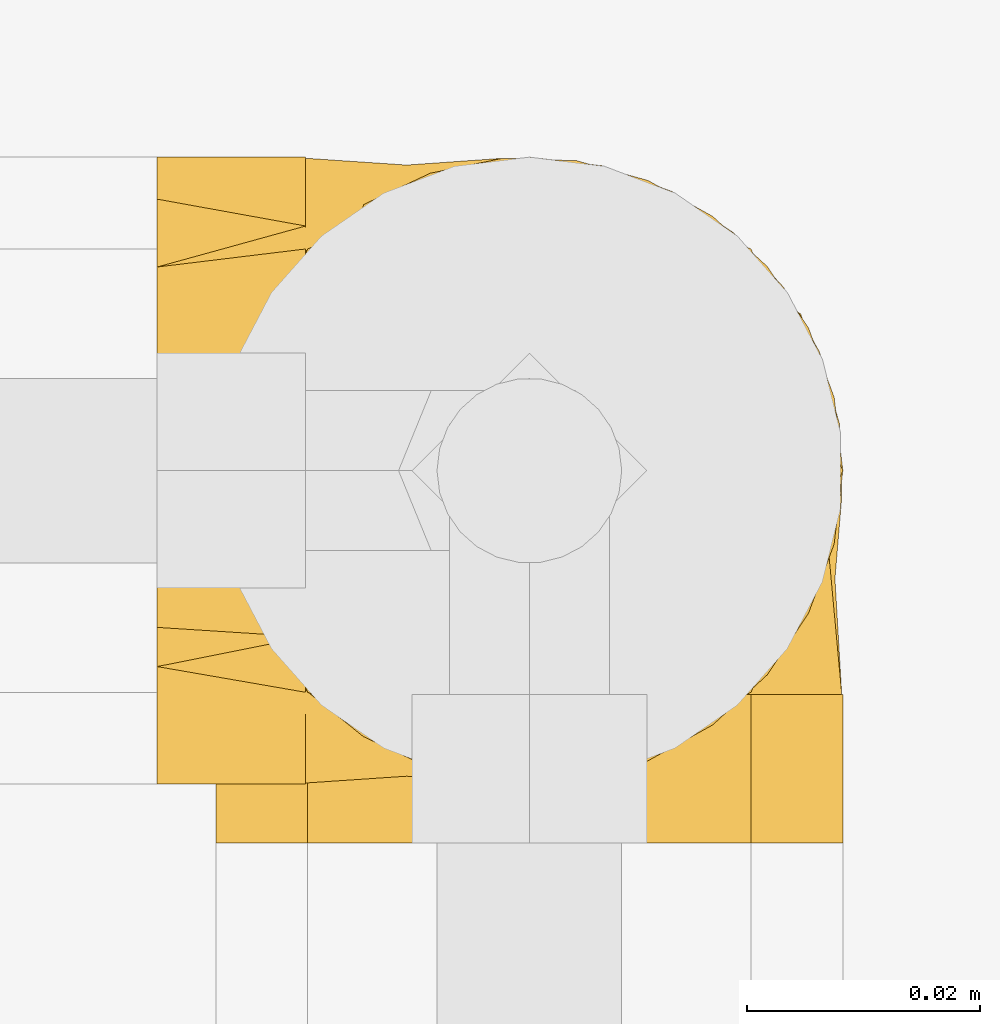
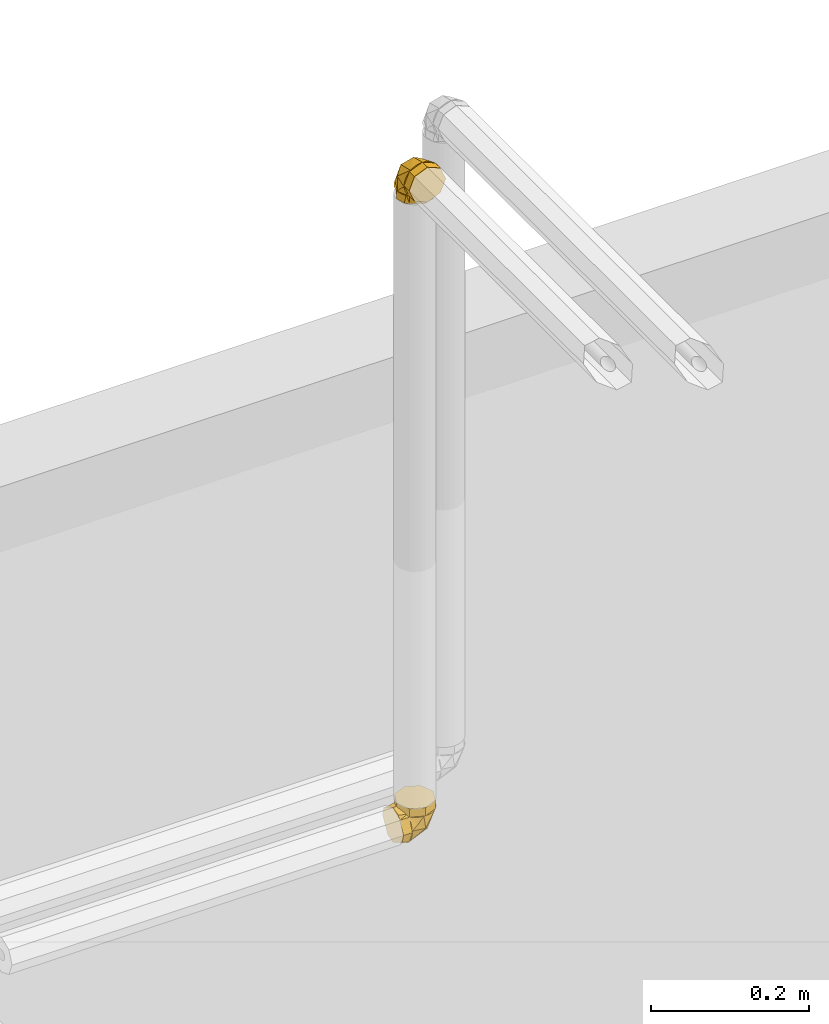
# One storey, part 375 of 652: 2 coverings.
"""IFC2X3 building model written with IfcOpenShell, lengths in millimetres."""

from ifc_helpers import new_model, entity, si_unit, converted_unit, direction, frame, origin, place, context, subcontext, project, spatial, face_set, surface_model, material, type_object, element, save


model = new_model("IFC2X3")

# Units and contexts
model_context = context("Model", 3, precision=0.01, world=frame((0.0, 0.0, 308426.39999999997)), true_north=direction((6.123233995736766e-17, 1.0)))
plan_context = context("Plan", 3, precision=0.01, world=frame((0.0, 0.0, 308426.39999999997)), true_north=direction((6.123233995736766e-17, 1.0)))
body_context = subcontext(model_context, "Body", "Model", "MODEL_VIEW")
ifc_project = project(units=[si_unit("LENGTHUNIT", "METRE", prefix="MILLI"), si_unit("AREAUNIT", "SQUARE_METRE"), si_unit("VOLUMEUNIT", "CUBIC_METRE"), converted_unit("PLANEANGLEUNIT", "DEGREE", entity("IfcPlaneAngleMeasure", 0.017453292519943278), si_unit("PLANEANGLEUNIT", "RADIAN"), dimensions=[0, 0, 0, 0, 0, 0, 0])], contexts=[model_context, plan_context])

# Site, building, storey
site_placement = place(None, origin())
site = spatial("IfcSite", under=ifc_project, at=site_placement, Name="Default", CompositionType="ELEMENT")
building_placement = place(site_placement, origin())
building = spatial("IfcBuilding", under=site, at=building_placement, CompositionType="ELEMENT")
storey_placement = place(building_placement, frame((0.0, 0.0, 1730.6999999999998)))
storey = spatial("IfcBuildingStorey", under=building, at=storey_placement, Name="EG_Produktion_FFB", CompositionType="ELEMENT", Elevation=1730.6999999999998)

# Coverings
ifc_material = material(Name="Dämmung - Armaflex-Schlauch")
covering_type = type_object("IfcCoveringType", Name="Rohrdämmung außen:Armaflex-Schlauch", PredefinedType="INSULATION")
covering_1_placement = place(storey_placement, frame((47171.46722776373, 50290.05280774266, 3728.5327722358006)))
element("IfcCovering", 1, at=covering_1_placement, inside=storey, type_object=covering_type, material=ifc_material, Name="Rohrdämmung außen:Armaflex-Schlauch", ObjectType="Rohrdämmung außen:Armaflex-Schlauch", PredefinedType="INSULATION", context=body_context, shape_type="SurfaceModel", body=[
    surface_model("IfcFaceBasedSurfaceModel", [(47.409122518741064, 12.766250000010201, -47.75027223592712), (51.38658262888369, 12.766250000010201, -42.79223424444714), (54.0915642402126, 12.766250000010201, -37.040242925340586), (55.37345654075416, 12.766250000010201, -30.814563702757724), (55.16088498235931, 12.766250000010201, -24.461836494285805), (53.465685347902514, 12.766250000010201, -18.335775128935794), (50.38224474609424, 12.766250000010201, -12.77747289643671), (46.08224622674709, 12.766250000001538, -8.096410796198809), (40.8051096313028, 12.766250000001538, -4.553225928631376), (34.844660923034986, 12.766250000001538, -2.3451994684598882), (28.532772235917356, 12.766250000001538, -1.595272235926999), (22.220883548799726, 12.766250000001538, -2.3451994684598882), (16.26043484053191, 12.766250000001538, -4.553225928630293), (10.983298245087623, 12.766250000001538, -8.096410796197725), (6.683299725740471, 12.766250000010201, -12.77747289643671), (3.599859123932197, 12.766250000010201, -18.33577512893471), (1.904659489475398, 12.766250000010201, -24.461836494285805), (1.6920879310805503, 12.766250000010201, -30.814563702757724), (2.973980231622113, 12.766250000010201, -37.040242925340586), (5.678961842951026, 12.766250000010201, -42.79223424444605), (9.65642195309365, 12.766250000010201, -47.75027223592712), (5.678961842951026, 17.72428799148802, -47.75027223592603), (2.973980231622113, 23.476279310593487, -47.75027223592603), (1.6920879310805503, 29.701958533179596, -47.75027223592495), (1.904659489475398, 36.05468574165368, -47.75027223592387), (3.599859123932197, 42.18074710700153, -47.75027223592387), (6.683299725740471, 47.73904933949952, -47.750272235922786), (10.983298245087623, 52.420111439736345, -47.750272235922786), (16.26043484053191, 55.96329630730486, -47.750272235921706), (22.220883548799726, 58.17132276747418, -47.750272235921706), (28.532772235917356, 58.921250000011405, -47.750272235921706), (34.844660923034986, 58.17132276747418, -47.750272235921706), (40.8051096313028, 55.96329630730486, -47.750272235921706), (46.08224622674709, 52.420111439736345, -47.750272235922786), (50.38224474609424, 47.73904933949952, -47.750272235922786), (53.465685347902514, 42.18074710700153, -47.75027223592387), (55.16088498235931, 36.05468574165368, -47.75027223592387), (55.37345654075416, 29.701958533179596, -47.75027223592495), (54.0915642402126, 23.476279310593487, -47.75027223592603), (51.38658262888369, 17.72428799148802, -47.75027223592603), (54.78966920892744, 22.708715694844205, -39.069426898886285), (28.530806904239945, 35.842797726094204, -7.778894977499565), (50.729451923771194, 12.765136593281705, -19.45550783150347), (53.46416872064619, 33.563867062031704, -26.95098054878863), (42.78109987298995, 43.1818846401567, -18.674741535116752), (28.530806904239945, 48.376916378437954, -29.48629091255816), (50.729451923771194, 41.061083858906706, -47.75029237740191), (14.285164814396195, 43.1818846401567, -18.674741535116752), (3.602095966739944, 33.563867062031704, -26.95098054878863), (2.276595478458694, 22.708715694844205, -39.069426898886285), (6.336812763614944, 41.061083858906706, -47.75029237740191), (6.336812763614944, 12.765136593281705, -19.45550783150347), (28.532772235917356, 0.0, -1.5952722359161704), (23.77085000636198, 0.0, -3.567725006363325), (19.008927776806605, 0.0, -5.540177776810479), (14.247005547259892, 0.0, -7.51263054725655), (9.485083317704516, 0.0, -9.485083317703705), (7.512630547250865, 0.0, -14.247005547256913), (5.540177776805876, 0.0, -19.008927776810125), (3.567725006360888, 0.0, -23.770850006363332), (1.5952722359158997, 0.0, -28.532772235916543), (3.567725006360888, 0.0, -33.29469446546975), (5.540177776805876, 0.0, -38.05661669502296), (7.512630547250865, 0.0, -42.818538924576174), (9.485083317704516, 0.0, -47.58046115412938), (14.247005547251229, 0.0, -49.552913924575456), (19.008927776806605, 0.0, -51.52536669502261), (23.77085000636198, 0.0, -53.49781946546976), (28.532772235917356, 0.0, -55.470272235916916), (33.29469446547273, 0.0, -53.49781946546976), (38.056616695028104, 0.0, -51.52536669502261), (42.818538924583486, 0.0, -49.552913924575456), (47.5804611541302, 0.0, -47.58046115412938), (49.55291392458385, 0.0, -42.818538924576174), (51.525366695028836, 0.0, -38.05661669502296), (53.497819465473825, 0.0, -33.29469446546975), (55.47027223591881, 0.0, -28.532772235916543), (53.497819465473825, 0.0, -23.770850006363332), (51.525366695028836, 0.0, -19.008927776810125), (49.552913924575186, 0.0, -14.247005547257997), (47.5804611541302, 0.0, -9.485083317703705), (42.81853892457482, 0.0, -7.51263054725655), (38.056616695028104, 0.0, -5.540177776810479), (33.29469446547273, 0.0, -3.567725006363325), (28.532772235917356, 12.766250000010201, -1.5952722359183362), (33.29469446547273, 12.766250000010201, -3.567725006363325), (38.056616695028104, 12.766250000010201, -5.540177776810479), (42.81853892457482, 12.766250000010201, -7.512630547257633), (47.5804611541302, 12.766250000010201, -9.48508331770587), (49.96980627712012, 12.766250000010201, -15.25347271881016), (52.35915140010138, 12.766250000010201, -21.021862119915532), (55.47027223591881, 12.766250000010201, -28.53277223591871), (53.497819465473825, 12.766250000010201, -33.29469446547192), (51.525366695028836, 12.766250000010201, -38.05661669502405), (49.552913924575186, 12.766250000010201, -42.818538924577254), (47.5804611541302, 12.766250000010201, -47.58046115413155), (41.81207175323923, 12.766250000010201, -49.96980627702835), (36.04368235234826, 12.766250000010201, -52.35915139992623), (28.532772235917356, 12.766250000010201, -55.47027223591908), (23.77085000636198, 12.766250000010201, -53.49781946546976), (19.008927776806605, 12.766250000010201, -51.52536669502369), (14.247005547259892, 12.766250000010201, -49.552913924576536), (9.485083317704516, 12.766250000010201, -47.58046115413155), (7.095738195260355, 12.766250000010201, -41.81207175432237), (4.706393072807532, 12.766250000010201, -36.04368235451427), (1.5952722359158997, 12.766250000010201, -28.53277223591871), (3.567725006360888, 12.766250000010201, -23.7708500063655), (5.540177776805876, 12.766250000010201, -19.008927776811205), (7.512630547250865, 12.766250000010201, -14.247005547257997), (9.485083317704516, 12.766250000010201, -9.48508331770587), (15.253472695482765, 12.766250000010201, -7.09573820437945), (21.021862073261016, 12.766250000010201, -4.7063930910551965), (28.532772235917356, 58.921250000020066, -60.51652223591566), (34.36491206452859, 55.55406250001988, -60.51652223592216), (40.197051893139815, 52.186875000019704, -60.51652223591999), (46.02919172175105, 48.81968750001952, -60.516522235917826), (51.86133155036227, 45.452500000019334, -60.51652223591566), (53.66580189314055, 38.71812500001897, -60.51652223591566), (55.47027223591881, 31.98375000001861, -60.51652223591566), (52.10308473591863, 26.15161017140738, -60.51652223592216), (48.73589723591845, 20.319470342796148, -60.51652223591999), (45.368709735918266, 14.487330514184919, -60.516522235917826), (42.00152223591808, 8.65519068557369, -60.51652223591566), (35.26714723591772, 6.850720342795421, -60.51652223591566), (28.532772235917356, 5.046250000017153, -60.51652223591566), (22.700632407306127, 8.413437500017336, -60.51652223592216), (16.868492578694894, 11.780625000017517, -60.51652223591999), (11.036352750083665, 15.1478125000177, -60.516522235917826), (5.204212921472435, 18.51500000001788, -60.51652223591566), (3.3997425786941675, 25.249375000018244, -60.51652223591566), (1.5952722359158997, 31.98375000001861, -60.51652223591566), (4.962459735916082, 37.81588982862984, -60.51652223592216), (8.329647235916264, 43.64802965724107, -60.51652223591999), (11.696834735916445, 49.4801694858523, -60.516522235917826), (15.064022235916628, 55.312309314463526, -60.51652223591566), (21.79839723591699, 57.1167796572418, -60.51652223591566), (28.532772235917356, 58.921250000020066, -47.75027223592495), (23.77085000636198, 56.94879722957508, -47.75027223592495), (19.008927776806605, 54.97634445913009, -47.75027223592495), (14.247005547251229, 53.00389168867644, -47.75027223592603), (9.485083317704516, 51.03143891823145, -47.75027223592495), (7.512630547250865, 46.26951668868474, -47.75027223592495), (5.540177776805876, 41.50759445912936, -47.75027223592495), (3.567725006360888, 36.745672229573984, -47.75027223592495), (1.5952722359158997, 31.98375000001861, -47.75027223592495), (3.567725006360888, 27.221827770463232, -47.75027223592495), (5.540177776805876, 22.459905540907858, -47.75027223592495), (7.512630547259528, 17.697983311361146, -47.75027223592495), (9.485083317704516, 12.93606108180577, -47.75027223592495), (14.247005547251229, 10.963608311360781, -47.75027223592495), (19.008927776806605, 8.99115554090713, -47.75027223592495), (23.77085000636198, 7.018702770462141, -47.75027223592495), (28.532772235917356, 5.046250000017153, -47.75027223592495), (33.29469446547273, 7.018702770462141, -47.75027223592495), (38.056616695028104, 8.99115554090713, -47.75027223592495), (42.818538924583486, 10.963608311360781, -47.75027223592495), (47.5804611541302, 12.93606108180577, -47.75027223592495), (49.552913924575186, 17.697983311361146, -47.75027223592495), (51.525366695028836, 22.459905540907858, -47.75027223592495), (53.497819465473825, 27.221827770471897, -47.75027223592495), (55.47027223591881, 31.98375000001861, -47.75027223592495), (53.497819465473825, 36.745672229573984, -47.75027223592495), (51.525366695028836, 41.50759445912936, -47.75027223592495), (49.552913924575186, 46.26951668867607, -47.75027223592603), (47.5804611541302, 51.03143891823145, -47.75027223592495), (42.81853892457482, 53.00389168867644, -47.75027223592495), (38.056616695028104, 54.97634445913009, -47.75027223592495), (33.29469446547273, 56.948797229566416, -47.75027223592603)], [face_set([[[0, 1, 2, 3, 4, 5, 6, 7, 8, 9, 10, 11, 12, 13, 14, 15, 16, 17, 18, 19]], [[20, 21, 22, 23, 24, 25, 26, 27, 28, 29, 30, 31, 32, 33, 34, 35, 36, 37, 38, 39]], [[0, 40, 3]], [[10, 7, 41]], [[42, 3, 43, 7]], [[40, 43, 3]], [[37, 40, 0]], [[7, 43, 44]], [[45, 41, 44]], [[7, 44, 41]], [[33, 30, 45]], [[45, 44, 33]], [[43, 33, 44]], [[43, 37, 46, 33]], [[37, 43, 40]], [[13, 10, 41]], [[27, 47, 45]], [[45, 30, 27]], [[48, 47, 27]], [[49, 48, 23]], [[50, 23, 48, 27]], [[45, 47, 41]], [[20, 49, 23]], [[47, 48, 13]], [[17, 49, 20]], [[41, 47, 13]], [[48, 17, 51, 13]], [[17, 48, 49]]]), face_set([[[52, 53, 54, 55, 56, 57, 58, 59, 60, 61, 62, 63, 64, 65, 66, 67, 68, 69, 70, 71, 72, 73, 74, 75, 76, 77, 78, 79, 80, 81, 82, 83]], [[84, 85, 86, 87, 88, 89, 90, 91, 92, 93, 94, 95, 96, 97, 98, 99, 100, 101, 102, 103, 104, 105, 106, 107, 108, 109, 110, 111]], [[111, 110, 109, 56, 55, 54, 53, 52, 84]], [[56, 109, 108, 107, 106, 105, 60, 59, 58, 57]], [[104, 103, 102, 64, 63, 62, 61, 60, 105]], [[64, 102, 101, 100, 99, 98, 68, 67, 66, 65]], [[97, 96, 95, 72, 71, 70, 69, 68, 98]], [[72, 95, 94, 93, 92, 91, 76, 75, 74, 73]], [[90, 89, 88, 80, 79, 78, 77, 76, 91]], [[80, 88, 87, 86, 85, 84, 52, 83, 82, 81]]]), face_set([[[112, 113, 114, 115, 116, 117, 118, 119, 120, 121, 122, 123, 124, 125, 126, 127, 128, 129, 130, 131, 132, 133, 134, 135]], [[136, 137, 138, 139, 140, 141, 142, 143, 144, 145, 146, 147, 148, 149, 150, 151, 152, 153, 154, 155, 156, 157, 158, 159, 160, 161, 162, 163, 164, 165, 166, 167]], [[155, 121, 156]], [[118, 159, 119]], [[159, 158, 119]], [[123, 154, 153]], [[153, 152, 124]], [[121, 155, 122]], [[120, 158, 157]], [[118, 160, 159]], [[158, 120, 119]], [[124, 123, 153]], [[157, 156, 121]], [[155, 154, 122]], [[123, 122, 154]], [[120, 157, 121]], [[163, 115, 164]], [[112, 167, 113]], [[167, 166, 113]], [[117, 162, 161]], [[161, 160, 118]], [[115, 163, 116]], [[114, 166, 165]], [[112, 136, 167]], [[166, 114, 113]], [[118, 117, 161]], [[165, 164, 115]], [[163, 162, 116]], [[117, 116, 162]], [[114, 165, 115]], [[139, 133, 140]], [[130, 143, 131]], [[143, 142, 131]], [[135, 138, 137]], [[137, 136, 112]], [[133, 139, 134]], [[132, 142, 141]], [[130, 144, 143]], [[142, 132, 131]], [[112, 135, 137]], [[141, 140, 133]], [[139, 138, 134]], [[135, 134, 138]], [[132, 141, 133]], [[147, 127, 148]], [[124, 151, 125]], [[151, 150, 125]], [[129, 146, 145]], [[145, 144, 130]], [[127, 147, 128]], [[126, 150, 149]], [[124, 152, 151]], [[150, 126, 125]], [[130, 129, 145]], [[149, 148, 127]], [[147, 146, 128]], [[129, 128, 146]], [[126, 149, 127]]])]),
])
covering_2_placement = place(storey_placement, frame((47168.01624999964, 50293.50378550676, 2671.467227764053)))
element("IfcCovering", 2, at=covering_2_placement, inside=storey, type_object=covering_type, material=ifc_material, Name="Rohrdämmung außen:Armaflex-Schlauch", ObjectType="Rohrdämmung außen:Armaflex-Schlauch", PredefinedType="INSULATION", context=body_context, shape_type="SurfaceModel", body=[
    surface_model("IfcFaceBasedSurfaceModel", [(12.766249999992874, 9.65642195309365, 47.750272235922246), (17.724287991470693, 5.678961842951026, 47.750272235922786), (23.47627931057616, 2.973980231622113, 47.750272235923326), (29.70195853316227, 1.6920879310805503, 47.75027223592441), (36.054685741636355, 1.904659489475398, 47.75027223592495), (42.1807471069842, 3.599859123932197, 47.75027223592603), (47.7390493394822, 6.683299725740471, 47.75027223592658), (52.420111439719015, 10.983298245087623, 47.75027223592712), (55.963296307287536, 16.26043484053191, 47.75027223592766), (58.17132276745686, 22.220883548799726, 47.75027223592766), (58.921249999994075, 28.532772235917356, 47.75027223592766), (58.17132276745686, 34.844660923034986, 47.75027223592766), (55.963296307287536, 40.8051096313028, 47.75027223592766), (52.420111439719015, 46.08224622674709, 47.75027223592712), (47.7390493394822, 50.38224474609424, 47.75027223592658), (42.1807471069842, 53.465685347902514, 47.75027223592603), (36.054685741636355, 55.16088498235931, 47.75027223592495), (29.70195853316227, 55.37345654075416, 47.75027223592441), (23.47627931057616, 54.0915642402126, 47.750272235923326), (17.724287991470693, 51.38658262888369, 47.750272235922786), (12.766249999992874, 47.409122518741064, 47.750272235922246), (12.766249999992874, 51.38658262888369, 42.79223424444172), (12.766249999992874, 54.0915642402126, 37.04024292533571), (12.766249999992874, 55.37345654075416, 30.81456370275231), (12.766249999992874, 55.16088498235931, 24.46183649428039), (12.766249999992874, 53.465685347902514, 18.33577512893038), (12.766249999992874, 50.38224474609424, 12.777472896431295), (12.766250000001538, 46.08224622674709, 8.096410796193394), (12.766250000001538, 40.8051096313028, 4.553225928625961), (12.766250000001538, 34.844660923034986, 2.3451994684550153), (12.766250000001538, 28.532772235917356, 1.5952722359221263), (12.766250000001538, 22.220883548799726, 2.3451994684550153), (12.766250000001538, 16.26043484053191, 4.553225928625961), (12.766250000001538, 10.983298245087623, 8.096410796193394), (12.766249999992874, 6.683299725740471, 12.777472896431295), (12.766249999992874, 3.599859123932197, 18.33577512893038), (12.766249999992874, 1.904659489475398, 24.46183649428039), (12.766249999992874, 1.6920879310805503, 30.81456370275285), (12.766249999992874, 2.973980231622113, 37.04024292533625), (12.766249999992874, 5.678961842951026, 42.79223424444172), (21.447543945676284, 2.277379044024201, 37.807400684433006), (52.738657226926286, 28.53159046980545, 24.672737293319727), (33.567734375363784, 3.598228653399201, 26.951086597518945), (41.06030029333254, 6.337596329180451, 47.75039842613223), (31.028354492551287, 28.53159046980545, 12.139781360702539), (41.84164794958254, 14.2859483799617, 17.332487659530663), (12.764353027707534, 6.337596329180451, 19.45561388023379), (41.84164794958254, 42.781883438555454, 17.332487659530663), (33.567734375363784, 53.464952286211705, 26.951086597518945), (21.447543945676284, 54.790452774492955, 37.807400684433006), (12.764353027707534, 50.72558461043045, 19.45561388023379), (41.06030029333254, 50.72558461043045, 47.75039842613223), (53.00389168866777, 14.247005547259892, 60.51652223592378), (54.97634445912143, 19.008927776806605, 60.51652223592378), (56.948797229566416, 23.77085000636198, 60.51652223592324), (58.921250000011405, 28.532772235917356, 60.5165222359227), (56.948797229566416, 33.29469446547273, 60.5165222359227), (54.97634445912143, 38.056616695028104, 60.51652223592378), (53.00389168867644, 42.818538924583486, 60.51652223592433), (51.03143891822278, 47.5804611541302, 60.51652223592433), (46.26951668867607, 49.55291392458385, 60.51652223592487), (41.507594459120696, 51.525366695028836, 60.51652223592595), (36.74567222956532, 53.497819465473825, 60.51652223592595), (31.983750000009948, 55.47027223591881, 60.516522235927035), (27.22182777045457, 53.497819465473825, 60.516522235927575), (22.459905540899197, 51.525366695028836, 60.516522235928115), (17.69798331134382, 49.552913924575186, 60.516522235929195), (12.936061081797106, 47.5804611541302, 60.51652223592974), (10.963608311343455, 42.818538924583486, 60.51652223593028), (8.991155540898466, 38.056616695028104, 60.51652223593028), (7.018702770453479, 33.29469446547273, 60.51652223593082), (5.046250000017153, 28.532772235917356, 60.51652223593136), (7.018702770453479, 23.77085000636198, 60.51652223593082), (8.991155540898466, 19.008927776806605, 60.51652223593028), (10.963608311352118, 14.247005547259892, 60.51652223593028), (12.936061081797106, 9.485083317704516, 60.51652223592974), (17.69798331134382, 7.512630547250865, 60.516522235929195), (22.459905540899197, 5.540177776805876, 60.516522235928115), (27.22182777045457, 3.567725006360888, 60.516522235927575), (31.983750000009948, 1.5952722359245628, 60.516522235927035), (36.74567222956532, 3.567725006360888, 60.51652223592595), (41.507594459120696, 5.540177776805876, 60.51652223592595), (46.26951668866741, 7.512630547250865, 60.51652223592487), (51.03143891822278, 9.485083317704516, 60.51652223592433), (58.92125000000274, 28.532772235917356, 47.75027223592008), (56.948797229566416, 23.77085000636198, 47.75027223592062), (54.97634445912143, 19.008927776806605, 47.750272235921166), (53.00389168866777, 14.247005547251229, 47.750272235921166), (51.03143891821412, 9.485083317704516, 47.750272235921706), (45.26304951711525, 7.095738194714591, 47.750272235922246), (39.49466011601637, 4.706393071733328, 47.750272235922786), (31.983750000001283, 1.5952722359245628, 47.75027223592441), (27.22182777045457, 3.567725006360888, 47.75027223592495), (22.459905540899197, 5.540177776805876, 47.75027223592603), (17.69798331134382, 7.512630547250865, 47.75027223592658), (12.936061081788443, 9.485083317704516, 47.75027223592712), (10.546715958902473, 15.253472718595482, 47.7502722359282), (8.157370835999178, 21.021862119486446, 47.7502722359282), (5.046250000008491, 28.532772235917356, 47.75027223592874), (7.018702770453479, 33.29469446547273, 47.7502722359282), (8.991155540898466, 38.056616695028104, 47.7502722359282), (10.963608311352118, 42.818538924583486, 47.7502722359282), (12.936061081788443, 47.5804611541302, 47.75027223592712), (18.704450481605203, 49.96980627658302, 47.75027223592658), (24.472839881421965, 52.359151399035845, 47.75027223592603), (31.983750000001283, 55.47027223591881, 47.75027223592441), (36.74567222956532, 53.497819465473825, 47.75027223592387), (41.507594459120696, 51.525366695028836, 47.750272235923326), (46.26951668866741, 49.552913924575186, 47.750272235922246), (51.03143891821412, 47.5804611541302, 47.750272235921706), (53.420784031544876, 41.81207177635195, 47.750272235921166), (55.810129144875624, 36.0436823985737, 47.750272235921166), (0.0, 28.532772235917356, 1.5952722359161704), (0.0, 22.700632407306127, 4.962459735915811), (0.0, 16.868492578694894, 8.329647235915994), (0.0, 11.036352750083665, 11.696834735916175), (0.0, 5.204212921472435, 15.064022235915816), (0.0, 3.3997425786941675, 21.798397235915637), (0.0, 1.5952722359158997, 28.532772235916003), (0.0, 4.962459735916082, 34.36491206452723), (0.0, 8.329647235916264, 40.19705189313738), (0.0, 11.696834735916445, 46.02919172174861), (0.0, 15.064022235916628, 51.861331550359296), (0.0, 21.79839723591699, 53.66580189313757), (0.0, 28.532772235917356, 55.470272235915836), (0.0, 34.36491206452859, 52.10308473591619), (0.0, 40.197051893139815, 48.73589723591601), (0.0, 46.02919172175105, 45.36870973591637), (0.0, 51.86133155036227, 42.00152223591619), (0.0, 53.66580189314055, 35.26714723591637), (0.0, 55.47027223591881, 28.532772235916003), (0.0, 52.10308473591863, 22.700632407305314), (0.0, 48.73589723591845, 16.868492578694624), (0.0, 45.368709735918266, 11.036352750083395), (0.0, 42.00152223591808, 5.204212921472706), (0.0, 35.26714723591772, 3.3997425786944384), (12.766250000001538, 28.532772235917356, 1.5952722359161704), (12.766250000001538, 33.29469446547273, 3.567725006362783), (12.766250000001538, 38.056616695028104, 5.540177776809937), (12.766250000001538, 42.81853892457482, 7.512630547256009), (12.766250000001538, 47.5804611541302, 9.485083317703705), (12.766250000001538, 49.55291392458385, 14.247005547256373), (12.766250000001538, 51.525366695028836, 19.008927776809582), (12.766250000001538, 53.497819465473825, 23.770850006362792), (12.766250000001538, 55.47027223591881, 28.532772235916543), (12.766250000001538, 53.497819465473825, 33.29469446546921), (12.766250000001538, 51.525366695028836, 38.05661669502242), (12.766250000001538, 49.55291392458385, 42.818538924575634), (12.766250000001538, 47.5804611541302, 47.58046115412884), (12.766250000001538, 42.81853892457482, 49.552913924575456), (12.766250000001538, 38.056616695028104, 51.525366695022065), (12.766250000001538, 33.29469446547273, 53.49781946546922), (12.766250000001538, 28.532772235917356, 55.470272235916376), (12.766250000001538, 23.77085000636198, 53.49781946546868), (12.766250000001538, 19.008927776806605, 51.525366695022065), (12.766250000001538, 14.247005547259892, 49.552913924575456), (12.766250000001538, 9.485083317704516, 47.58046115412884), (12.766250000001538, 7.512630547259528, 42.818538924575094), (12.766250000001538, 5.540177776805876, 38.05661669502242), (12.766250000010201, 3.567725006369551, 33.29469446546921), (12.766250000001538, 1.5952722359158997, 28.532772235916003), (12.766250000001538, 3.567725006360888, 23.770850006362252), (12.766250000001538, 5.540177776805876, 19.008927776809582), (12.766250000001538, 7.512630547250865, 14.247005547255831), (12.766250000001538, 9.485083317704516, 9.485083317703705), (12.766250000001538, 14.247005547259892, 7.512630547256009), (12.766250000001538, 19.008927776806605, 5.540177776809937), (12.766250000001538, 23.77085000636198, 3.5677250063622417)], [face_set([[[0, 1, 2, 3, 4, 5, 6, 7, 8, 9, 10, 11, 12, 13, 14, 15, 16, 17, 18, 19]], [[20, 21, 22, 23, 24, 25, 26, 27, 28, 29, 30, 31, 32, 33, 34, 35, 36, 37, 38, 39]], [[0, 40, 3]], [[10, 7, 41]], [[37, 42, 40]], [[42, 7, 43]], [[37, 40, 0]], [[3, 40, 42]], [[44, 41, 45]], [[7, 45, 41]], [[33, 30, 44]], [[44, 45, 33]], [[42, 33, 45]], [[42, 37, 46]], [[7, 42, 45]], [[43, 3, 42]], [[46, 33, 42]], [[13, 10, 41]], [[27, 47, 44]], [[44, 30, 27]], [[48, 47, 27]], [[49, 48, 23]], [[48, 50, 23]], [[44, 47, 41]], [[20, 49, 23]], [[47, 48, 13]], [[17, 49, 20]], [[41, 47, 13]], [[48, 17, 51]], [[48, 27, 50]], [[17, 48, 49]], [[51, 13, 48]]]), face_set([[[52, 53, 54, 55, 56, 57, 58, 59, 60, 61, 62, 63, 64, 65, 66, 67, 68, 69, 70, 71, 72, 73, 74, 75, 76, 77, 78, 79, 80, 81, 82, 83]], [[84, 85, 86, 87, 88, 89, 90, 91, 92, 93, 94, 95, 96, 97, 98, 99, 100, 101, 102, 103, 104, 105, 106, 107, 108, 109, 110, 111]], [[111, 110, 109, 59, 58, 57, 56, 55, 84]], [[59, 109, 108, 107, 106, 105, 63, 62, 61, 60]], [[104, 103, 102, 67, 66, 65, 64, 63, 105]], [[67, 102, 101, 100, 99, 98, 71, 70, 69, 68]], [[97, 96, 95, 75, 74, 73, 72, 71, 98]], [[75, 95, 94, 93, 92, 91, 79, 78, 77, 76]], [[90, 89, 88, 83, 82, 81, 80, 79, 91]], [[83, 88, 87, 86, 85, 84, 55, 54, 53, 52]]]), face_set([[[112, 113, 114, 115, 116, 117, 118, 119, 120, 121, 122, 123, 124, 125, 126, 127, 128, 129, 130, 131, 132, 133, 134, 135]], [[136, 137, 138, 139, 140, 141, 142, 143, 144, 145, 146, 147, 148, 149, 150, 151, 152, 153, 154, 155, 156, 157, 158, 159, 160, 161, 162, 163, 164, 165, 166, 167]], [[155, 121, 156]], [[118, 159, 119]], [[159, 158, 119]], [[123, 154, 153]], [[153, 152, 124]], [[121, 155, 122]], [[120, 158, 157]], [[118, 160, 159]], [[158, 120, 119]], [[124, 123, 153]], [[157, 156, 121]], [[155, 154, 122]], [[123, 122, 154]], [[120, 157, 121]], [[163, 115, 164]], [[112, 167, 113]], [[167, 166, 113]], [[117, 162, 161]], [[161, 160, 118]], [[115, 163, 116]], [[114, 166, 165]], [[112, 136, 167]], [[166, 114, 113]], [[118, 117, 161]], [[165, 164, 115]], [[163, 162, 116]], [[117, 116, 162]], [[114, 165, 115]], [[139, 133, 140]], [[130, 143, 131]], [[143, 142, 131]], [[135, 138, 137]], [[137, 136, 112]], [[133, 139, 134]], [[132, 142, 141]], [[130, 144, 143]], [[142, 132, 131]], [[112, 135, 137]], [[141, 140, 133]], [[139, 138, 134]], [[135, 134, 138]], [[132, 141, 133]], [[147, 127, 148]], [[124, 151, 125]], [[151, 150, 125]], [[129, 146, 145]], [[145, 144, 130]], [[127, 147, 128]], [[126, 150, 149]], [[124, 152, 151]], [[150, 126, 125]], [[130, 129, 145]], [[149, 148, 127]], [[147, 146, 128]], [[129, 128, 146]], [[126, 149, 127]]])]),
])

save(model, "model.ifc")
